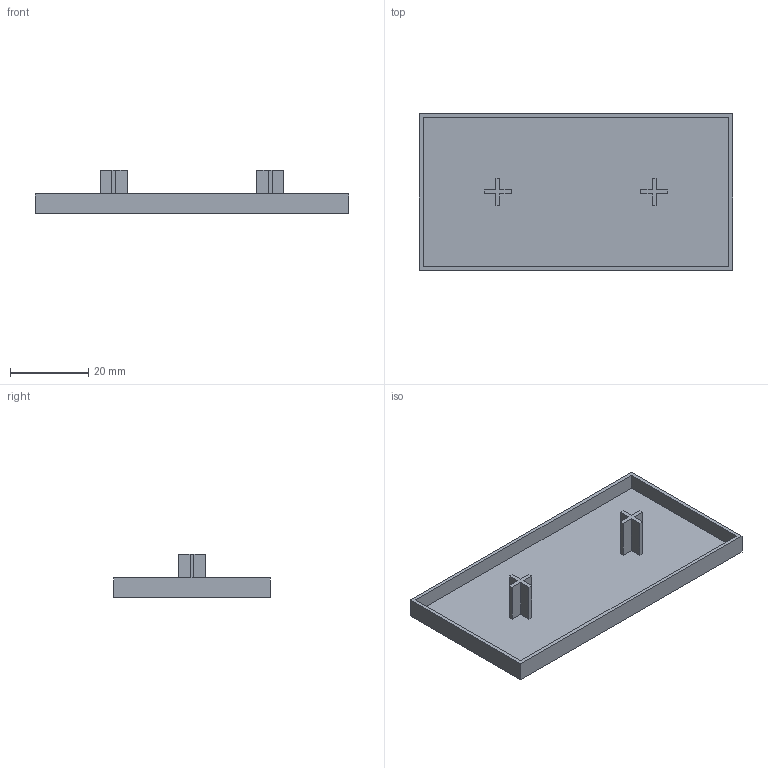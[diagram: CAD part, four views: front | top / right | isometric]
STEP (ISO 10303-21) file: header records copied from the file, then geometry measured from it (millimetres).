
FILE_DESCRIPTION (( 'STEP AP203' ), '1' );
FILE_NAME ('177-CE-CP-4080G.STEP', '2015-07-09T09:15:58', ( '' ), ( '' ), 'SwSTEP 2.0', 'SolidWorks 2013', '' );
FILE_SCHEMA (( 'CONFIG_CONTROL_DESIGN' ));
Length unit declared in the file: millimetre
Products named in the file (1): 177-CE-CP-4080G
Bounding box: 80 x 40 x 11 mm (x, y, z)
Volume: 4404 mm3; surface area: 9088 mm2
Topology: 1 solids, 1 shells, 37 faces, 96 edges, 64 vertices
Faces by surface type: plane 37
Entity records: 1187 total; most frequent: CARTESIAN_POINT 198, ORIENTED_EDGE 192, DIRECTION 172, EDGE_CURVE 96, VECTOR 96, LINE 96, VERTEX_POINT 64, EDGE_LOOP 40
